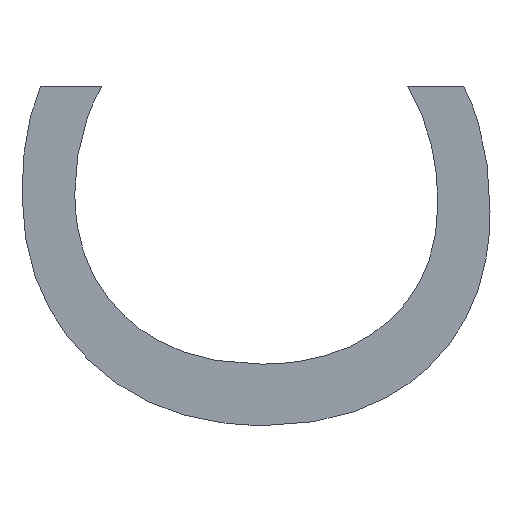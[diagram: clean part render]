
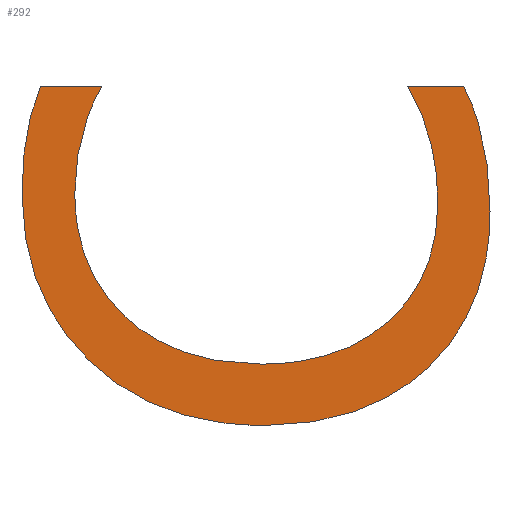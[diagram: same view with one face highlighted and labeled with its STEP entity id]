
A CAD part, top view. The second image highlights one B-rep face of the part: STEP entity #292.
In plain terms, the highlighted planar face has unit normal (0, 0, 1).
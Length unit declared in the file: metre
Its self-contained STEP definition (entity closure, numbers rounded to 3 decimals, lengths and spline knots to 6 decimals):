
#26=LINE('',#521,#44);
#27=LINE('',#553,#45);
#44=VECTOR('',#428,1.);
#45=VECTOR('',#429,1.);
#74=ORIENTED_EDGE('',*,*,#158,.T.);
#75=ORIENTED_EDGE('',*,*,#159,.T.);
#76=ORIENTED_EDGE('',*,*,#160,.T.);
#77=ORIENTED_EDGE('',*,*,#161,.T.);
#78=ORIENTED_EDGE('',*,*,#162,.T.);
#79=ORIENTED_EDGE('',*,*,#163,.T.);
#80=ORIENTED_EDGE('',*,*,#164,.T.);
#81=ORIENTED_EDGE('',*,*,#165,.T.);
#82=ORIENTED_EDGE('',*,*,#166,.T.);
#83=ORIENTED_EDGE('',*,*,#167,.T.);
#84=ORIENTED_EDGE('',*,*,#168,.T.);
#85=ORIENTED_EDGE('',*,*,#169,.T.);
#86=ORIENTED_EDGE('',*,*,#170,.T.);
#87=ORIENTED_EDGE('',*,*,#171,.T.);
#158=EDGE_CURVE('',#200,#201,#226,.T.);
#159=EDGE_CURVE('',#201,#202,#26,.T.);
#160=EDGE_CURVE('',#202,#203,#227,.T.);
#161=EDGE_CURVE('',#203,#204,#228,.T.);
#162=EDGE_CURVE('',#204,#205,#229,.T.);
#163=EDGE_CURVE('',#205,#206,#230,.T.);
#164=EDGE_CURVE('',#206,#207,#231,.T.);
#165=EDGE_CURVE('',#207,#208,#232,.T.);
#166=EDGE_CURVE('',#208,#209,#27,.T.);
#167=EDGE_CURVE('',#209,#210,#233,.T.);
#168=EDGE_CURVE('',#210,#211,#234,.T.);
#169=EDGE_CURVE('',#211,#212,#235,.T.);
#170=EDGE_CURVE('',#212,#213,#236,.T.);
#171=EDGE_CURVE('',#213,#200,#237,.T.);
#200=VERTEX_POINT('',#519);
#201=VERTEX_POINT('',#520);
#202=VERTEX_POINT('',#522);
#203=VERTEX_POINT('',#527);
#204=VERTEX_POINT('',#532);
#205=VERTEX_POINT('',#537);
#206=VERTEX_POINT('',#542);
#207=VERTEX_POINT('',#547);
#208=VERTEX_POINT('',#552);
#209=VERTEX_POINT('',#554);
#210=VERTEX_POINT('',#559);
#211=VERTEX_POINT('',#564);
#212=VERTEX_POINT('',#569);
#213=VERTEX_POINT('',#574);
#226=B_SPLINE_CURVE_WITH_KNOTS('',3,(#515,#516,#517,#518),.UNSPECIFIED.,
 .F.,.F.,(4,4),(0.,1.),.UNSPECIFIED.);
#227=B_SPLINE_CURVE_WITH_KNOTS('',3,(#523,#524,#525,#526),.UNSPECIFIED.,
 .F.,.F.,(4,4),(12.,13.),.UNSPECIFIED.);
#228=B_SPLINE_CURVE_WITH_KNOTS('',3,(#528,#529,#530,#531),.UNSPECIFIED.,
 .F.,.F.,(4,4),(11.,12.),.UNSPECIFIED.);
#229=B_SPLINE_CURVE_WITH_KNOTS('',3,(#533,#534,#535,#536),.UNSPECIFIED.,
 .F.,.F.,(4,4),(10.,11.),.UNSPECIFIED.);
#230=B_SPLINE_CURVE_WITH_KNOTS('',3,(#538,#539,#540,#541),.UNSPECIFIED.,
 .F.,.F.,(4,4),(9.,10.),.UNSPECIFIED.);
#231=B_SPLINE_CURVE_WITH_KNOTS('',3,(#543,#544,#545,#546),.UNSPECIFIED.,
 .F.,.F.,(4,4),(8.,9.),.UNSPECIFIED.);
#232=B_SPLINE_CURVE_WITH_KNOTS('',3,(#548,#549,#550,#551),.UNSPECIFIED.,
 .F.,.F.,(4,4),(7.,8.),.UNSPECIFIED.);
#233=B_SPLINE_CURVE_WITH_KNOTS('',3,(#555,#556,#557,#558),.UNSPECIFIED.,
 .F.,.F.,(4,4),(5.,6.),.UNSPECIFIED.);
#234=B_SPLINE_CURVE_WITH_KNOTS('',3,(#560,#561,#562,#563),.UNSPECIFIED.,
 .F.,.F.,(4,4),(4.,5.),.UNSPECIFIED.);
#235=B_SPLINE_CURVE_WITH_KNOTS('',3,(#565,#566,#567,#568),.UNSPECIFIED.,
 .F.,.F.,(4,4),(3.,4.),.UNSPECIFIED.);
#236=B_SPLINE_CURVE_WITH_KNOTS('',3,(#570,#571,#572,#573),.UNSPECIFIED.,
 .F.,.F.,(4,4),(2.,3.),.UNSPECIFIED.);
#237=B_SPLINE_CURVE_WITH_KNOTS('',3,(#575,#576,#577,#578),.UNSPECIFIED.,
 .F.,.F.,(4,4),(1.,2.),.UNSPECIFIED.);
#239=EDGE_LOOP('',(#74,#75,#76,#77,#78,#79,#80,#81,#82,#83,#84,#85,#86,
#87));
#255=FACE_BOUND('',#239,.T.);
#271=PLANE('',#417);
#292=ADVANCED_FACE('',(#255),#271,.T.);
#417=AXIS2_PLACEMENT_3D('',#514,#426,#427);
#426=DIRECTION('',(0.,0.,1.));
#427=DIRECTION('',(-1.,0.,0.));
#428=DIRECTION('',(-1.,0.,0.));
#429=DIRECTION('',(-1.,0.,0.));
#514=CARTESIAN_POINT('',(-0.121532,-0.032594,0.01125));
#515=CARTESIAN_POINT('',(-0.121531,-0.032613,0.01125));
#516=CARTESIAN_POINT('',(-0.121531,-0.032599,0.01125));
#517=CARTESIAN_POINT('',(-0.121533,-0.032588,0.01125));
#518=CARTESIAN_POINT('',(-0.121538,-0.032579,0.01125));
#519=CARTESIAN_POINT('',(-0.121531,-0.032613,0.01125));
#520=CARTESIAN_POINT('',(-0.121538,-0.032579,0.01125));
#521=CARTESIAN_POINT('',(-0.121553,-0.032579,0.01125));
#522=CARTESIAN_POINT('',(-0.121553,-0.032579,0.01125));
#523=CARTESIAN_POINT('',(-0.121553,-0.032579,0.01125));
#524=CARTESIAN_POINT('',(-0.121547,-0.032588,0.01125));
#525=CARTESIAN_POINT('',(-0.121545,-0.032598,0.01125));
#526=CARTESIAN_POINT('',(-0.121545,-0.03261,0.01125));
#527=CARTESIAN_POINT('',(-0.121545,-0.03261,0.01125));
#528=CARTESIAN_POINT('',(-0.121545,-0.03261,0.01125));
#529=CARTESIAN_POINT('',(-0.121545,-0.032623,0.01125));
#530=CARTESIAN_POINT('',(-0.121549,-0.032634,0.01125));
#531=CARTESIAN_POINT('',(-0.121557,-0.032642,0.01125));
#532=CARTESIAN_POINT('',(-0.121557,-0.032642,0.01125));
#533=CARTESIAN_POINT('',(-0.121557,-0.032642,0.01125));
#534=CARTESIAN_POINT('',(-0.121566,-0.03265,0.01125));
#535=CARTESIAN_POINT('',(-0.121578,-0.032654,0.01125));
#536=CARTESIAN_POINT('',(-0.121592,-0.032654,0.01125));
#537=CARTESIAN_POINT('',(-0.121592,-0.032654,0.01125));
#538=CARTESIAN_POINT('',(-0.121592,-0.032654,0.01125));
#539=CARTESIAN_POINT('',(-0.121608,-0.032654,0.01125));
#540=CARTESIAN_POINT('',(-0.12162,-0.03265,0.01125));
#541=CARTESIAN_POINT('',(-0.121629,-0.032641,0.01125));
#542=CARTESIAN_POINT('',(-0.121629,-0.032641,0.01125));
#543=CARTESIAN_POINT('',(-0.121629,-0.032641,0.01125));
#544=CARTESIAN_POINT('',(-0.121638,-0.032632,0.01125));
#545=CARTESIAN_POINT('',(-0.121642,-0.032621,0.01125));
#546=CARTESIAN_POINT('',(-0.121642,-0.032608,0.01125));
#547=CARTESIAN_POINT('',(-0.121642,-0.032608,0.01125));
#548=CARTESIAN_POINT('',(-0.121642,-0.032608,0.01125));
#549=CARTESIAN_POINT('',(-0.121642,-0.032597,0.01125));
#550=CARTESIAN_POINT('',(-0.12164,-0.032588,0.01125));
#551=CARTESIAN_POINT('',(-0.121635,-0.032579,0.01125));
#552=CARTESIAN_POINT('',(-0.121635,-0.032579,0.01125));
#553=CARTESIAN_POINT('',(-0.121652,-0.032579,0.01125));
#554=CARTESIAN_POINT('',(-0.121652,-0.032579,0.01125));
#555=CARTESIAN_POINT('',(-0.121652,-0.032579,0.01125));
#556=CARTESIAN_POINT('',(-0.121655,-0.032587,0.01125));
#557=CARTESIAN_POINT('',(-0.121657,-0.032596,0.01125));
#558=CARTESIAN_POINT('',(-0.121657,-0.032608,0.01125));
#559=CARTESIAN_POINT('',(-0.121657,-0.032608,0.01125));
#560=CARTESIAN_POINT('',(-0.121657,-0.032608,0.01125));
#561=CARTESIAN_POINT('',(-0.121657,-0.032626,0.01125));
#562=CARTESIAN_POINT('',(-0.121651,-0.032641,0.01125));
#563=CARTESIAN_POINT('',(-0.121639,-0.032653,0.01125));
#564=CARTESIAN_POINT('',(-0.121639,-0.032653,0.01125));
#565=CARTESIAN_POINT('',(-0.121639,-0.032653,0.01125));
#566=CARTESIAN_POINT('',(-0.121627,-0.032664,0.01125));
#567=CARTESIAN_POINT('',(-0.121611,-0.03267,0.01125));
#568=CARTESIAN_POINT('',(-0.121591,-0.03267,0.01125));
#569=CARTESIAN_POINT('',(-0.121591,-0.03267,0.01125));
#570=CARTESIAN_POINT('',(-0.121591,-0.03267,0.01125));
#571=CARTESIAN_POINT('',(-0.121573,-0.03267,0.01125));
#572=CARTESIAN_POINT('',(-0.121558,-0.032665,0.01125));
#573=CARTESIAN_POINT('',(-0.121547,-0.032655,0.01125));
#574=CARTESIAN_POINT('',(-0.121547,-0.032655,0.01125));
#575=CARTESIAN_POINT('',(-0.121547,-0.032655,0.01125));
#576=CARTESIAN_POINT('',(-0.121536,-0.032644,0.01125));
#577=CARTESIAN_POINT('',(-0.121531,-0.03263,0.01125));
#578=CARTESIAN_POINT('',(-0.121531,-0.032613,0.01125));
